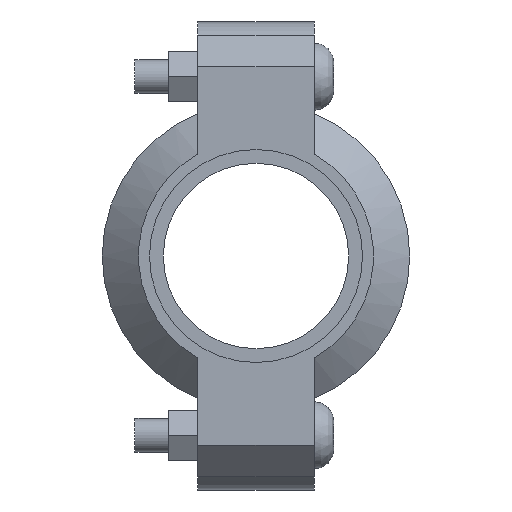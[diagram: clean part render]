
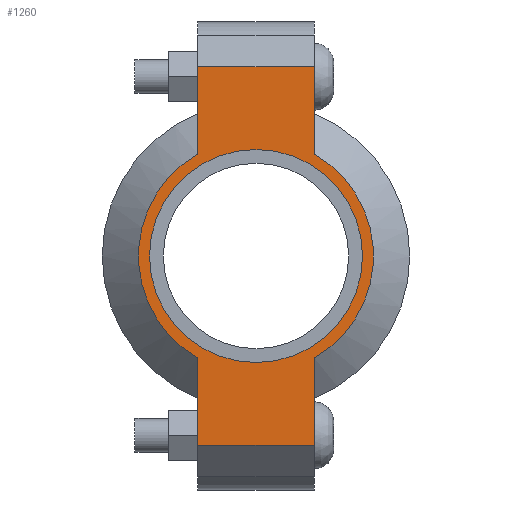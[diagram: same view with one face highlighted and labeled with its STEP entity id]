
A CAD part, left-side view. The second image highlights one B-rep face of the part: STEP entity #1260.
In plain terms, the highlighted planar face has unit normal (-1, 0, 0) as drawn and (0, 0, 1) by its records, which use the part's own axes.
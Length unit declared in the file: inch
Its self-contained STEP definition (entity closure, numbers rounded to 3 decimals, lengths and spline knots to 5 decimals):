
#101=LINE('',#2156,#188);
#109=LINE('',#2192,#196);
#116=LINE('',#2213,#203);
#125=LINE('',#2245,#212);
#126=LINE('',#2249,#213);
#127=LINE('',#2251,#214);
#188=VECTOR('',#1755,0.3937);
#196=VECTOR('',#1771,0.3937);
#203=VECTOR('',#1790,0.3937);
#212=VECTOR('',#1815,0.3937);
#213=VECTOR('',#1820,0.3937);
#214=VECTOR('',#1821,0.3937);
#258=FACE_BOUND('',#406,.T.);
#318=FACE_OUTER_BOUND('',#405,.T.);
#405=EDGE_LOOP('',(#1032,#1033,#1034,#1035,#1036,#1037,#1038,#1039));
#406=EDGE_LOOP('',(#1040));
#454=CIRCLE('',#1415,1.1875);
#480=CIRCLE('',#1474,1.31);
#481=CIRCLE('',#1475,1.31);
#522=VERTEX_POINT('',#1972);
#565=VERTEX_POINT('',#2153);
#566=VERTEX_POINT('',#2155);
#577=VERTEX_POINT('',#2187);
#578=VERTEX_POINT('',#2191);
#585=VERTEX_POINT('',#2210);
#586=VERTEX_POINT('',#2212);
#596=VERTEX_POINT('',#2248);
#597=VERTEX_POINT('',#2250);
#648=EDGE_CURVE('',#522,#522,#454,.T.);
#709=EDGE_CURVE('',#566,#565,#101,.T.);
#723=EDGE_CURVE('',#578,#577,#109,.T.);
#733=EDGE_CURVE('',#586,#585,#116,.T.);
#748=EDGE_CURVE('',#578,#565,#125,.T.);
#749=EDGE_CURVE('',#577,#586,#480,.T.);
#750=EDGE_CURVE('',#596,#585,#126,.T.);
#751=EDGE_CURVE('',#596,#597,#127,.T.);
#752=EDGE_CURVE('',#597,#566,#481,.T.);
#1032=ORIENTED_EDGE('',*,*,#748,.F.);
#1033=ORIENTED_EDGE('',*,*,#723,.T.);
#1034=ORIENTED_EDGE('',*,*,#749,.T.);
#1035=ORIENTED_EDGE('',*,*,#733,.T.);
#1036=ORIENTED_EDGE('',*,*,#750,.F.);
#1037=ORIENTED_EDGE('',*,*,#751,.T.);
#1038=ORIENTED_EDGE('',*,*,#752,.T.);
#1039=ORIENTED_EDGE('',*,*,#709,.T.);
#1040=ORIENTED_EDGE('',*,*,#648,.T.);
#1127=PLANE('',#1473);
#1260=ADVANCED_FACE('',(#318,#258),#1127,.T.);
#1415=AXIS2_PLACEMENT_3D('',#1974,#1631,#1632);
#1473=AXIS2_PLACEMENT_3D('',#2246,#1816,#1817);
#1474=AXIS2_PLACEMENT_3D('',#2247,#1818,#1819);
#1475=AXIS2_PLACEMENT_3D('',#2252,#1822,#1823);
#1631=DIRECTION('center_axis',(0.,0.,-1.));
#1632=DIRECTION('ref_axis',(-1.,0.,0.));
#1755=DIRECTION('',(-1.,0.,0.));
#1771=DIRECTION('',(1.,0.,0.));
#1790=DIRECTION('',(1.,0.,0.));
#1815=DIRECTION('',(0.,1.,0.));
#1816=DIRECTION('center_axis',(0.,0.,1.));
#1817=DIRECTION('ref_axis',(1.,0.,0.));
#1818=DIRECTION('center_axis',(0.,0.,1.));
#1819=DIRECTION('ref_axis',(-1.,0.,0.));
#1820=DIRECTION('',(0.,-1.,0.));
#1821=DIRECTION('',(-1.,0.,0.));
#1822=DIRECTION('center_axis',(0.,0.,1.));
#1823=DIRECTION('ref_axis',(-1.,0.,0.));
#1972=CARTESIAN_POINT('',(1.1875,0.,0.94));
#1974=CARTESIAN_POINT('Origin',(0.,0.,0.94));
#2153=CARTESIAN_POINT('',(-2.11,0.65,0.94));
#2155=CARTESIAN_POINT('',(-1.13737,0.65,0.94));
#2156=CARTESIAN_POINT('',(-2.61,0.65,0.94));
#2187=CARTESIAN_POINT('',(-1.13737,-0.65,0.94));
#2191=CARTESIAN_POINT('',(-2.11,-0.65,0.94));
#2192=CARTESIAN_POINT('',(2.61,-0.65,0.94));
#2210=CARTESIAN_POINT('',(2.11,-0.65,0.94));
#2212=CARTESIAN_POINT('',(1.13737,-0.65,0.94));
#2213=CARTESIAN_POINT('',(2.61,-0.65,0.94));
#2245=CARTESIAN_POINT('',(-2.11,0.325,0.94));
#2246=CARTESIAN_POINT('Origin',(0.,0.,0.94));
#2247=CARTESIAN_POINT('Origin',(0.,0.,0.94));
#2248=CARTESIAN_POINT('',(2.11,0.65,0.94));
#2249=CARTESIAN_POINT('',(2.11,-0.325,0.94));
#2250=CARTESIAN_POINT('',(1.13737,0.65,0.94));
#2251=CARTESIAN_POINT('',(-2.61,0.65,0.94));
#2252=CARTESIAN_POINT('Origin',(0.,0.,0.94));
